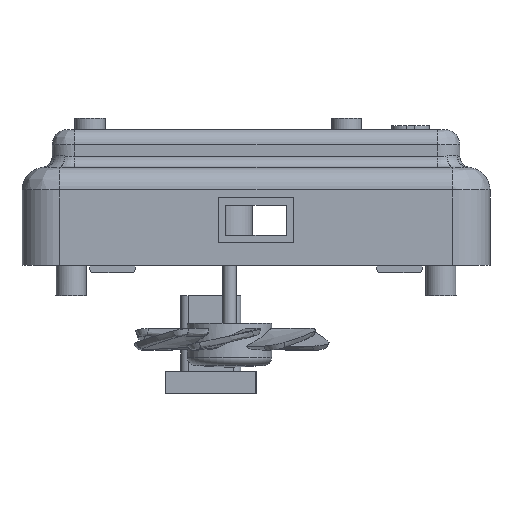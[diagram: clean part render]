
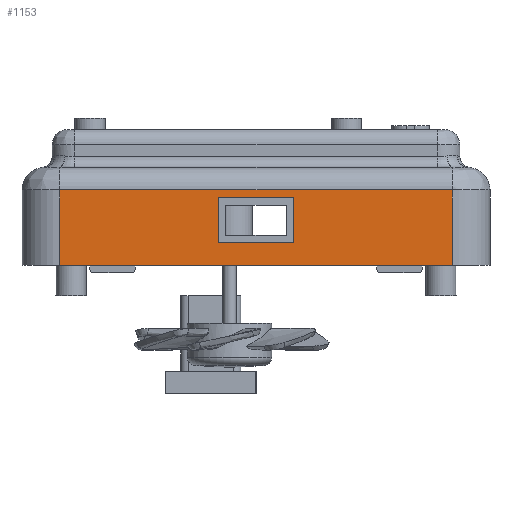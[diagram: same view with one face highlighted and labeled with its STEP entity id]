
A CAD part, left-side view. The second image highlights one B-rep face of the part: STEP entity #1153.
In plain terms, the highlighted planar face has unit normal (-1, 0, 0).
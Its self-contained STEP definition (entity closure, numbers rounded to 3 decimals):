
#627=FACE_BOUND('',#2167,.T.);
#628=FACE_BOUND('',#2168,.T.);
#836=PLANE('',#8128);
#1153=ADVANCED_FACE('',(#627,#628),#836,.T.);
#2167=EDGE_LOOP('',(#4632,#4633,#4634,#4635));
#2168=EDGE_LOOP('',(#4636,#4637,#4638,#4639));
#2609=LINE('',#14295,#3127);
#2734=LINE('',#15293,#3252);
#2735=LINE('',#15296,#3253);
#2736=LINE('',#15298,#3254);
#2737=LINE('',#15300,#3255);
#2738=LINE('',#15301,#3256);
#2739=LINE('',#15303,#3257);
#2740=LINE('',#15305,#3258);
#3127=VECTOR('',#9079,1.);
#3252=VECTOR('',#9510,1.);
#3253=VECTOR('',#9511,1.);
#3254=VECTOR('',#9512,1.);
#3255=VECTOR('',#9513,1.);
#3256=VECTOR('',#9514,1.);
#3257=VECTOR('',#9515,1.);
#3258=VECTOR('',#9516,1.);
#4632=ORIENTED_EDGE('',*,*,#7080,.F.);
#4633=ORIENTED_EDGE('',*,*,#7081,.F.);
#4634=ORIENTED_EDGE('',*,*,#7082,.F.);
#4635=ORIENTED_EDGE('',*,*,#7083,.F.);
#4636=ORIENTED_EDGE('',*,*,#7084,.T.);
#4637=ORIENTED_EDGE('',*,*,#7085,.T.);
#4638=ORIENTED_EDGE('',*,*,#7086,.T.);
#4639=ORIENTED_EDGE('',*,*,#6796,.T.);
#5949=VERTEX_POINT('',#14294);
#5950=VERTEX_POINT('',#14296);
#6188=VERTEX_POINT('',#15294);
#6189=VERTEX_POINT('',#15295);
#6190=VERTEX_POINT('',#15297);
#6191=VERTEX_POINT('',#15299);
#6192=VERTEX_POINT('',#15302);
#6193=VERTEX_POINT('',#15304);
#6796=EDGE_CURVE('',#5950,#5949,#2609,.T.);
#7080=EDGE_CURVE('',#6188,#6189,#2734,.T.);
#7081=EDGE_CURVE('',#6190,#6188,#2735,.T.);
#7082=EDGE_CURVE('',#6191,#6190,#2736,.T.);
#7083=EDGE_CURVE('',#6189,#6191,#2737,.T.);
#7084=EDGE_CURVE('',#5949,#6192,#2738,.T.);
#7085=EDGE_CURVE('',#6192,#6193,#2739,.T.);
#7086=EDGE_CURVE('',#6193,#5950,#2740,.T.);
#8128=AXIS2_PLACEMENT_3D('',#15306,#9517,#9518);
#9079=DIRECTION('',(0.,-1.,0.));
#9510=DIRECTION('',(0.,1.,0.));
#9511=DIRECTION('',(0.,0.,1.));
#9512=DIRECTION('',(0.,-1.,0.));
#9513=DIRECTION('',(0.,0.,-1.));
#9514=DIRECTION('',(0.,0.,1.));
#9515=DIRECTION('',(0.,1.,0.));
#9516=DIRECTION('',(0.,0.,-1.));
#9517=DIRECTION('',(-1.,0.,0.));
#9518=DIRECTION('',(0.,0.,1.));
#14294=CARTESIAN_POINT('',(-32.5,-26.,0.));
#14295=CARTESIAN_POINT('',(-32.5,0.,0.));
#14296=CARTESIAN_POINT('',(-32.5,26.,0.));
#15293=CARTESIAN_POINT('',(-32.5,0.,9.));
#15294=CARTESIAN_POINT('',(-32.5,-5.,9.));
#15295=CARTESIAN_POINT('',(-32.5,5.,9.));
#15296=CARTESIAN_POINT('',(-32.5,-5.,0.));
#15297=CARTESIAN_POINT('',(-32.5,-5.,3.));
#15298=CARTESIAN_POINT('',(-32.5,0.,3.));
#15299=CARTESIAN_POINT('',(-32.5,5.,3.));
#15300=CARTESIAN_POINT('',(-32.5,5.,0.));
#15301=CARTESIAN_POINT('',(-32.5,-26.,0.));
#15302=CARTESIAN_POINT('',(-32.5,-26.,10.));
#15303=CARTESIAN_POINT('',(-32.5,0.,10.));
#15304=CARTESIAN_POINT('',(-32.5,26.,10.));
#15305=CARTESIAN_POINT('',(-32.5,26.,0.));
#15306=CARTESIAN_POINT('',(-32.5,0.,0.));
